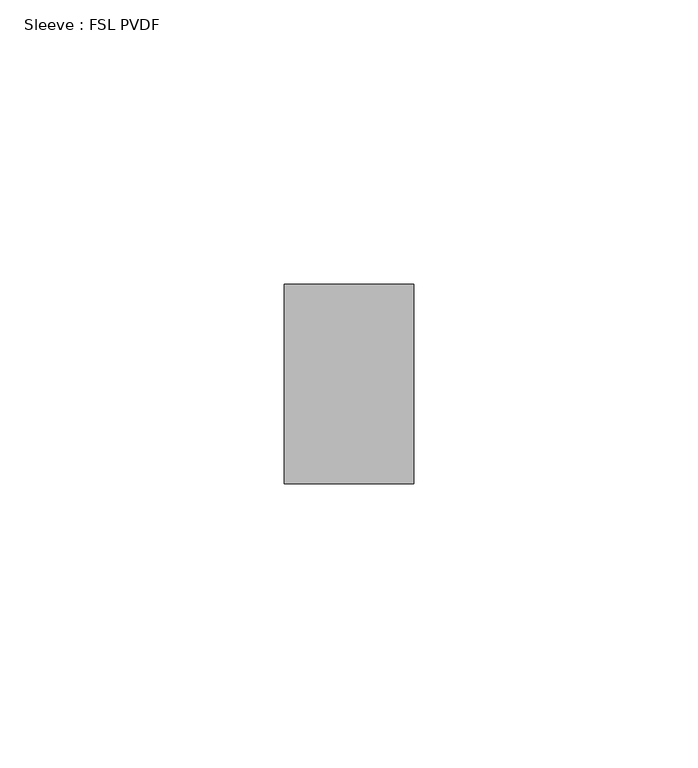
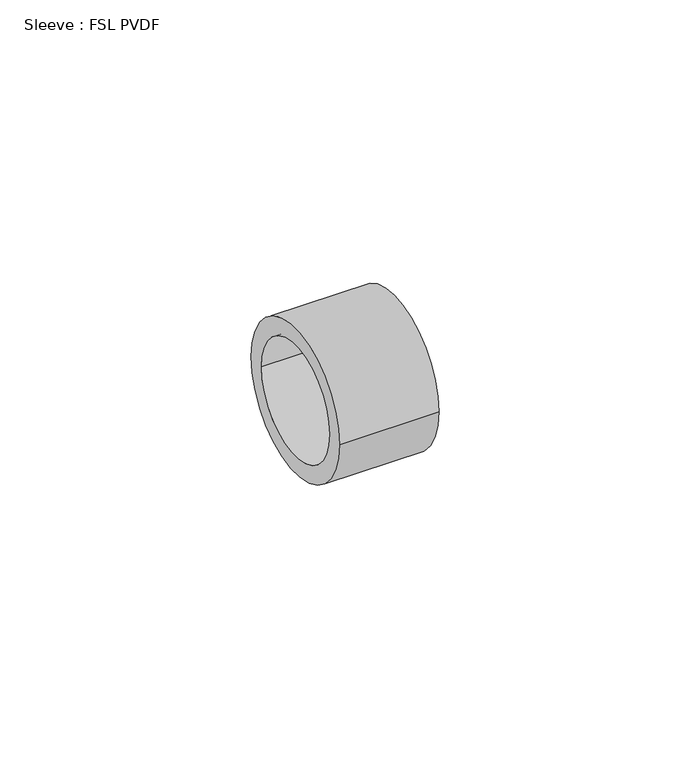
"""IFC4 building model written with IfcOpenShell, lengths in millimetres: pipe fitting geometry, Sleeve : FSL PVDF."""

from ifc_helpers import new_model, si_unit, point, frame, origin, origin_2d, place, context, project, spatial, circle_curve, trimmed, segment, composite_curve, outline, extrude, source, transform, mapped, element, save


def sleeve_fsl_pvdf_b286e573(model_context):
    return source(origin(), model_context, "Body", "SweptSolid", [
        extrude(outline(composite_curve([segment(trimmed(circle_curve(origin_2d(), 17.6), [point((-17.6, 0.0))], [point((17.6, 0.0))], False, "CARTESIAN"), True, "CONTINUOUS"), segment(trimmed(circle_curve(origin_2d(), 17.6), [point((17.6, 0.0))], [point((-17.6, 0.0))], False, "CARTESIAN"), True, "CONTINUOUS")], self_intersect=False), holes=[composite_curve([segment(trimmed(circle_curve(origin_2d(), 13.5), [point((-13.5, 0.0))], [point((13.5, 0.0))], True, "CARTESIAN"), True, "CONTINUOUS"), segment(trimmed(circle_curve(origin_2d(), 13.5), [point((13.5, 0.0))], [point((-13.5, 0.0))], True, "CARTESIAN"), True, "CONTINUOUS")], self_intersect=False)]), frame((0.0, 0.0, 0.0), z_axis=(1.0, 0.0, 0.0), x_axis=(0.0, 1.0, 0.0)), (0.0, 0.0, 1.0), 22.8),
    ])


if __name__ == "__main__":
    model = new_model("IFC4")
    model_context = context("Model", 3, world=origin())
    ifc_project = project(units=[si_unit("LENGTHUNIT", "METRE", prefix="MILLI")], contexts=[model_context])
    site = spatial("IfcSite", under=ifc_project)
    building = spatial("IfcBuilding", under=site)
    placement = place(None, origin())
    sleeve_fsl_pvdf_shape = sleeve_fsl_pvdf_b286e573(model_context)
    element("IfcPipeFitting", 1, ObjectType="Sleeve : FSL PVDF", at=placement, inside=building, context=model_context, shape_type="MappedRepresentation", body=[
        mapped(sleeve_fsl_pvdf_shape, transform((0.0, 0.0, 0.0), x_axis=(1.0, 0.0, 0.0), y_axis=(0.0, 1.0, 0.0), z_axis=(0.0, 0.0, 1.0))),
    ])
    save(model, "model.ifc")
